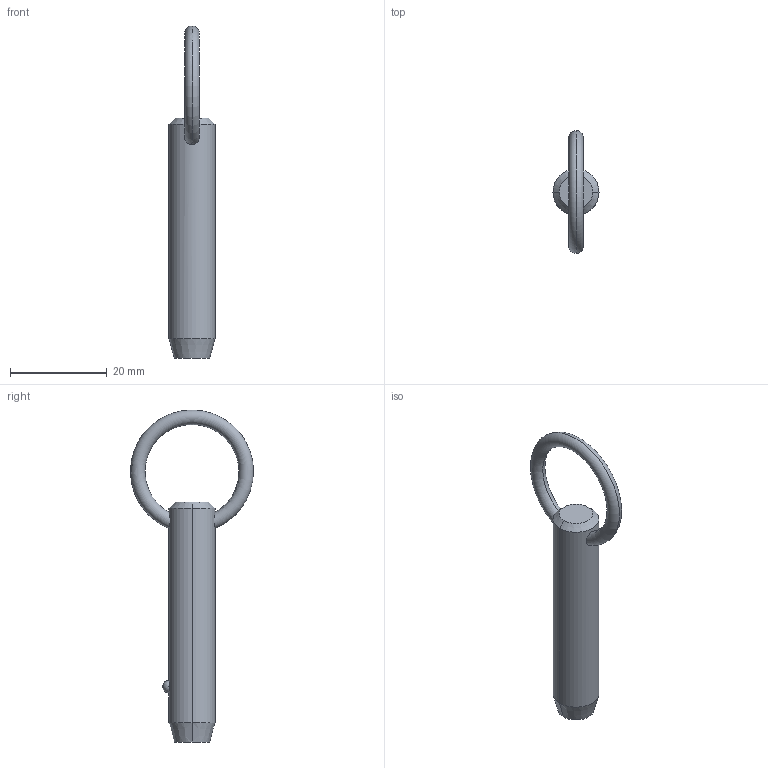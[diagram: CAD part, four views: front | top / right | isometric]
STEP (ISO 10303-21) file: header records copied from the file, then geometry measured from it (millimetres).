
FILE_DESCRIPTION (( 'STEP AP203' ), '1' );
FILE_NAME ('P1250.037-120.step', '2019-07-29T19:59:34', ( '' ), ( '' ), 'SwSTEP 2.0', 'SolidWorks 2017', '' );
FILE_SCHEMA (( 'CONFIG_CONTROL_DESIGN' ));
Length unit declared in the file: millimetre
Products named in the file (1): P1250.037-120
Bounding box: 9.52 x 25.39 x 68.6 mm (x, y, z)
Volume: 3878.2 mm3; surface area: 2124.1 mm2
Topology: 1 solids, 1 shells, 12 faces, 28 edges, 17 vertices
Faces by surface type: cone 4, torus 2, sphere 2, cylinder 2, plane 2
Entity records: 523 total; most frequent: CARTESIAN_POINT 190, DIRECTION 56, ORIENTED_EDGE 48, AXIS2_PLACEMENT_3D 25, EDGE_CURVE 24, VERTEX_POINT 15, EDGE_LOOP 15, FACE_OUTER_BOUND 12
